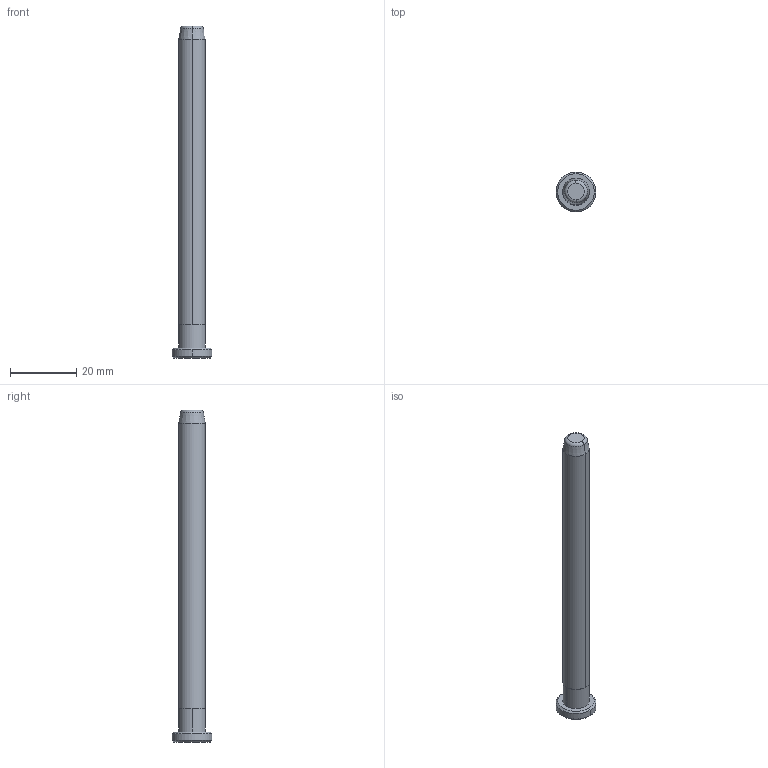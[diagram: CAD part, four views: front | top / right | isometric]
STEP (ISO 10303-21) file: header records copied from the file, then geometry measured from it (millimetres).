
FILE_DESCRIPTION((''),'2;1');
FILE_NAME('B80808100','2018-01-06T',('MANU'),(''),'PRO/ENGINEER BY PARAMETRIC TECHNOLOGY CORPORATION, 2012130','PRO/ENGINEER BY PARAMETRIC TECHNOLOGY CORPORATION, 2012130','');
FILE_SCHEMA(('CONFIG_CONTROL_DESIGN'));
Length unit declared in the file: millimetre
Products named in the file (1): B80808100
Bounding box: 12 x 12 x 100 mm (x, y, z)
Volume: 5173.3 mm3; surface area: 2725.5 mm2
Topology: 1 solids, 1 shells, 18 faces, 34 edges, 20 vertices
Faces by surface type: cone 6, cylinder 6, plane 4, torus 2
Entity records: 494 total; most frequent: DIRECTION 92, CARTESIAN_POINT 72, ORIENTED_EDGE 68, AXIS2_PLACEMENT_3D 40, EDGE_CURVE 34, CIRCLE 22, VERTEX_POINT 20, EDGE_LOOP 20
